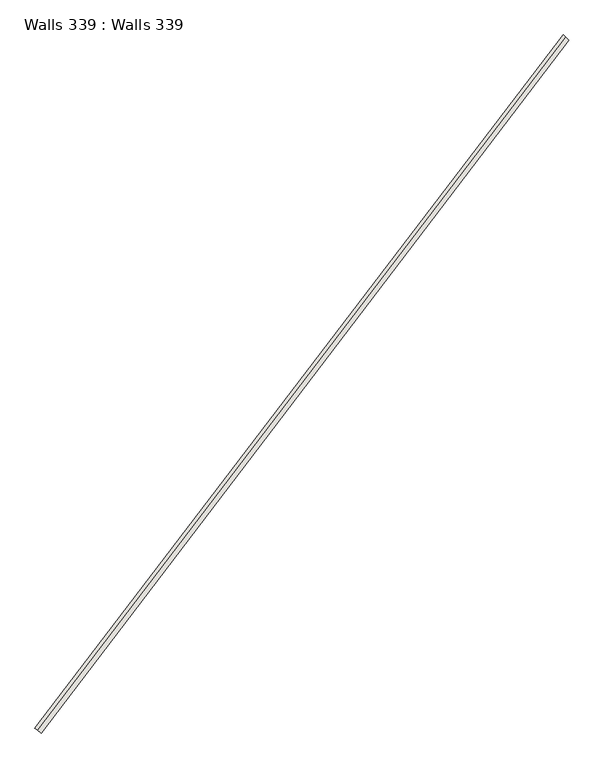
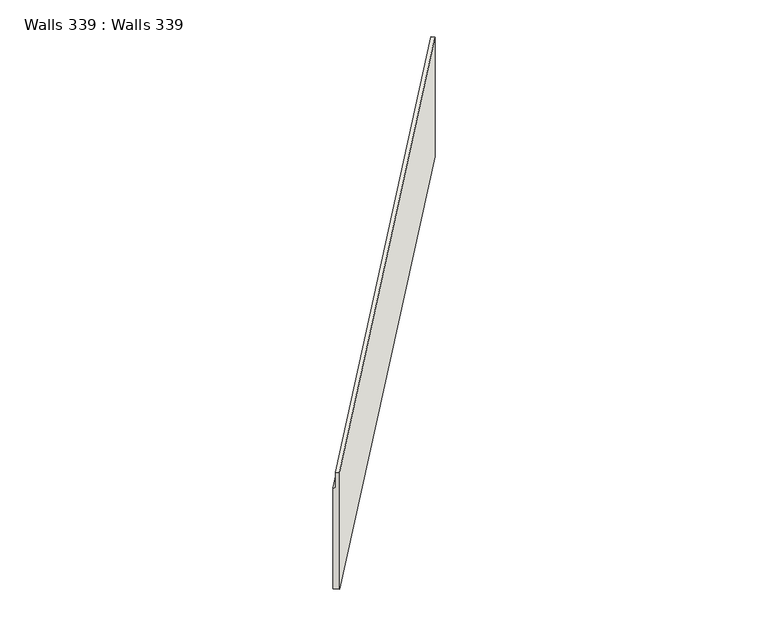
"""IFC4 building model written with IfcOpenShell, lengths in millimetres: wall geometry, Walls 339 : Walls 339."""

from ifc_helpers import new_model, si_unit, origin, place, context, project, spatial, faceted_brep, source, transform, mapped, element, save


def walls_339_walls_339_013ab1e5(model_context):
    return source(origin(), model_context, "Body", "Brep", [
        faceted_brep([(40579.2102054, -70629.7256719, 639118.0), (40579.2102054, -70629.7256719, 646488.0), (40420.1587671, -70508.4712288, 646488.0), (40420.1587671, -70508.4712288, 645488.0), (40300.8701883, -70417.5303965, 645488.0), (40300.8701883, -70417.5303965, 639118.0), (64051.4287719, -39840.8322602, 639534.6515145), (64051.4287719, -39840.8322602, 647081.5035962), (63903.5956549, -39704.8625614, 647081.7872555), (63903.5956549, -39704.8625614, 646081.7872555), (63792.7208171, -39602.8852873, 646082.0), (63792.7208171, -39602.8852873, 639535.0)], [[[0, 1, 2, 3, 4, 5]], [[1, 0, 6, 7]], [[2, 1, 7, 8]], [[3, 2, 8, 9]], [[4, 3, 9, 10]], [[5, 4, 10, 11]], [[0, 5, 11, 6]], [[7, 6, 11, 10, 9, 8]]]),
    ])


if __name__ == "__main__":
    model = new_model("IFC4")
    model_context = context("Model", 3, world=origin())
    ifc_project = project(units=[si_unit("LENGTHUNIT", "METRE", prefix="MILLI")], contexts=[model_context])
    site = spatial("IfcSite", under=ifc_project)
    building = spatial("IfcBuilding", under=site)
    placement = place(None, origin())
    walls_339_walls_339_shape = walls_339_walls_339_013ab1e5(model_context)
    element("IfcWall", 1, ObjectType="Walls 339 : Walls 339", at=placement, inside=building, context=model_context, shape_type="MappedRepresentation", body=[
        mapped(walls_339_walls_339_shape, transform((0.0, 0.0, 0.0), x_axis=(1.0, 0.0, 0.0), y_axis=(0.0, 1.0, 0.0), z_axis=(0.0, 0.0, 1.0))),
    ])
    save(model, "model.ifc")
